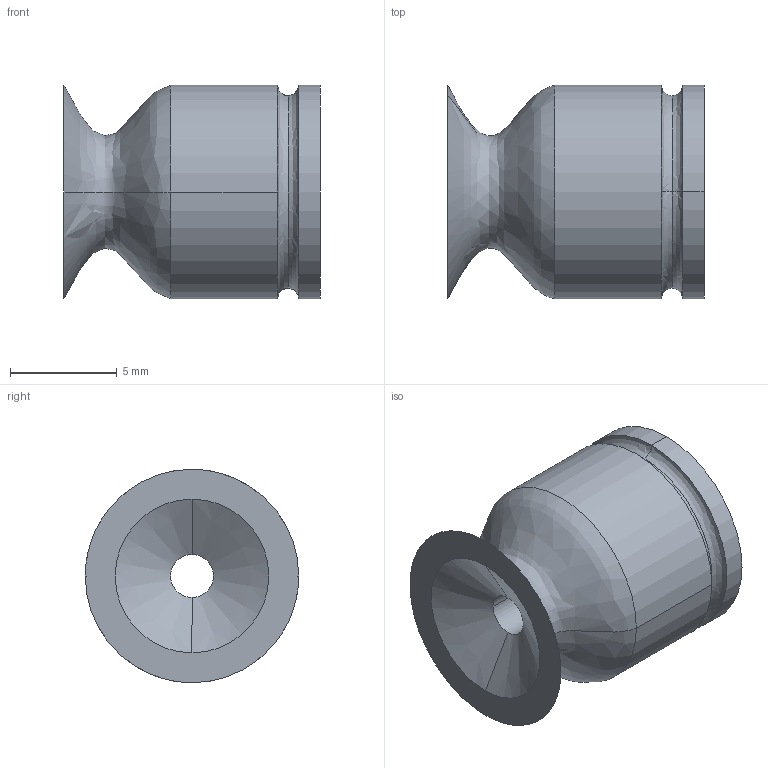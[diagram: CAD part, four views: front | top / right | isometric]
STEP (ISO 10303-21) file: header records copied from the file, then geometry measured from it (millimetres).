
FILE_DESCRIPTION (( 'STEP AP214' ), '1' );
FILE_NAME ('VSH-10R.STEP', '2019-11-14T01:21:24', ( '微软用户' ), ( '微软中国' ), 'SwSTEP 2.0', 'SolidWorks 2016', '' );
FILE_SCHEMA (( 'AUTOMOTIVE_DESIGN' ));
Length unit declared in the file: millimetre
Products named in the file (1): VSH-10R
Bounding box: 12 x 10 x 10 mm (x, y, z)
Volume: 615.5 mm3; surface area: 690 mm2
Topology: 1 solids, 1 shells, 22 faces, 48 edges, 30 vertices
Faces by surface type: cylinder 10, bspline 6, plane 4, cone 2
Entity records: 718 total; most frequent: CARTESIAN_POINT 215, DIRECTION 102, ORIENTED_EDGE 96, EDGE_CURVE 48, AXIS2_PLACEMENT_3D 45, VERTEX_POINT 30, CIRCLE 28, EDGE_LOOP 26
